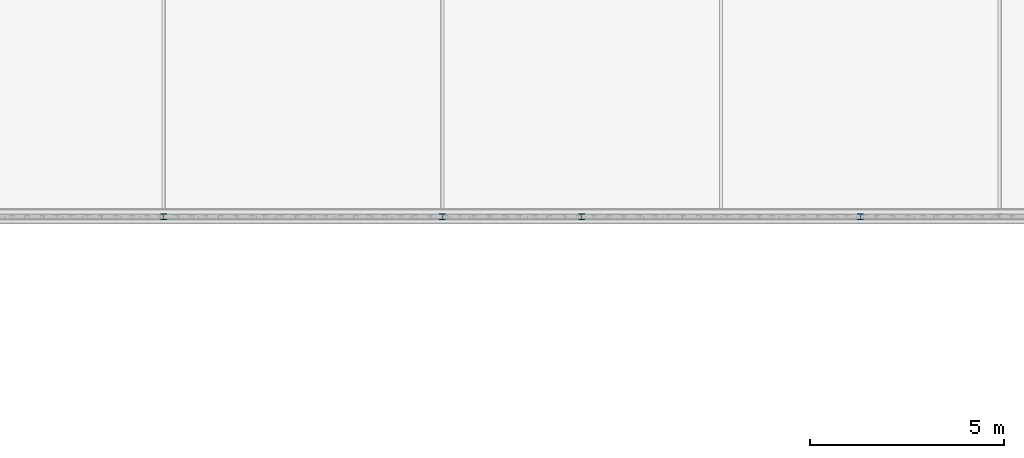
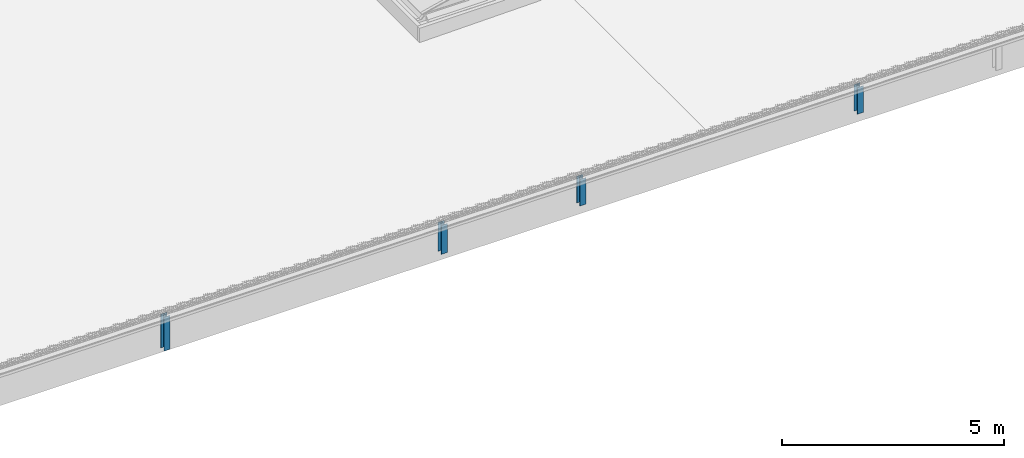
# One storey, part 18 of 81: 4 columns.
"""IFC2X3 building model written with IfcOpenShell, lengths in millimetres."""

from ifc_helpers import new_model, entity, si_unit, converted_unit, derived_unit, money_unit, direction, frame, origin_with_axes, place, context, subcontext, project, spatial, faceted_brep, material, type_object, element, save


model = new_model("IFC2X3")

# Units and contexts
model_context = context("Model", 3, precision=0.01, world=origin_with_axes(), true_north=direction((0.0, 1.0)))
body_context = subcontext(model_context, "Body", "Model", "MODEL_VIEW")
ifc_project = project(units=[si_unit("LENGTHUNIT", "METRE", prefix="MILLI"), si_unit("AREAUNIT", "SQUARE_METRE"), si_unit("VOLUMEUNIT", "CUBIC_METRE"), converted_unit("PLANEANGLEUNIT", "DEGREE", entity("IfcPlaneAngleMeasure", 0.0174532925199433), si_unit("PLANEANGLEUNIT", "RADIAN"), dimensions=[0, 0, 0, 0, 0, 0, 0]), money_unit("EUR"), converted_unit("TIMEUNIT", "Year", entity("IfcTimeMeasure", 31557600.0), si_unit("TIMEUNIT", "SECOND"), dimensions=[0, 0, 1, 0, 0, 0, 0]), si_unit("MASSUNIT", "GRAM", prefix="KILO"), si_unit("THERMODYNAMICTEMPERATUREUNIT", "DEGREE_CELSIUS"), si_unit("LUMINOUSINTENSITYUNIT", "LUMEN"), si_unit("ENERGYUNIT", "JOULE", prefix="MEGA"), derived_unit("THERMALCONDUCTANCEUNIT", [(si_unit("POWERUNIT", "WATT"), 1), (si_unit("LENGTHUNIT", "METRE"), -1), (si_unit("THERMODYNAMICTEMPERATUREUNIT", "KELVIN"), -1)]), derived_unit("SPECIFICHEATCAPACITYUNIT", [(si_unit("ENERGYUNIT", "JOULE"), 1), (si_unit("MASSUNIT", "GRAM", prefix="KILO"), -1), (si_unit("THERMODYNAMICTEMPERATUREUNIT", "KELVIN"), -1)]), derived_unit("MASSDENSITYUNIT", [(si_unit("MASSUNIT", "GRAM", prefix="KILO"), 1), (si_unit("VOLUMEUNIT", "CUBIC_METRE"), -1)])], contexts=[model_context])

# Site, building, storey
site_placement = place(None, origin_with_axes())
site = spatial("IfcSite", under=ifc_project, at=site_placement, Name="Site", CompositionType="ELEMENT")
building_placement = place(site_placement, origin_with_axes())
building = spatial("IfcBuilding", under=site, at=building_placement, Name="Naam gebouw", CompositionType="ELEMENT")
storey_placement = place(building_placement, frame((0.0, 0.0, 15320.0), z_axis=(0.0, 0.0, 1.0), x_axis=(1.0, 0.0, 0.0)))
storey = spatial("IfcBuildingStorey", under=building, at=storey_placement, Name="01 dak", CompositionType="ELEMENT", Elevation=15320.0)

# Columns
ifc_material = material(Name="Metaal - Staal C")
column_type = type_object("IfcColumnType", Name="HEA160 160 x 152", PredefinedType="COLUMN")
column_1_placement = place(storey_placement, frame((39699.99999999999, 30080.0, -138.7039064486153), z_axis=(0.0, 0.0, 1.0), x_axis=(-1.0, 0.0, 0.0)))
element("IfcColumn", 1, at=column_1_placement, inside=storey, type_object=column_type, material=ifc_material, Name="HEA160", ObjectType="COLUMN", context=body_context, shape_type="Brep", body=[
    faceted_brep([(-79.9999999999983, 76.00000000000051, 793.6645467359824), (-79.9999999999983, 76.00000000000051, 0.0), (-79.9999999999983, 67.00000000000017, 0.0), (-79.9999999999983, 67.00000000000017, 793.6645467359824), (79.9999999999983, 76.00000000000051, 793.6645467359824), (79.9999999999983, 76.00000000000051, 0.0), (79.9999999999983, 67.00000000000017, 0.0), (3.000000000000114, 67.00000000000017, 0.0), (3.000000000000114, -67.00000000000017, 0.0), (79.9999999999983, -67.00000000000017, 0.0), (79.9999999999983, -76.00000000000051, 0.0), (-79.9999999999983, -76.00000000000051, 0.0), (-79.9999999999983, -67.00000000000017, 0.0), (-3.000000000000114, -67.00000000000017, 0.0), (-3.000000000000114, 67.00000000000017, 0.0), (-3.000000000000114, 67.00000000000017, 793.6645467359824), (-3.000000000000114, -67.00000000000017, 793.6645467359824), (-79.9999999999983, -67.00000000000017, 793.6645467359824), (-79.9999999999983, -76.00000000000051, 793.6645467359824), (79.9999999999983, -76.00000000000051, 793.6645467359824), (79.9999999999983, -67.00000000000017, 793.6645467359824), (3.000000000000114, -67.00000000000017, 793.6645467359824), (3.000000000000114, 67.00000000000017, 793.6645467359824), (79.9999999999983, 67.00000000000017, 793.6645467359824)], [[[0, 1, 2, 3]], [[4, 5, 1, 0]], [[2, 1, 5, 6, 7, 8, 9, 10, 11, 12, 13, 14]], [[3, 2, 14, 15]], [[4, 0, 3, 15, 16, 17, 18, 19, 20, 21, 22, 23]], [[23, 6, 5, 4]], [[22, 7, 6, 23]], [[21, 8, 7, 22]], [[20, 9, 8, 21]], [[19, 10, 9, 20]], [[18, 11, 10, 19]], [[17, 12, 11, 18]], [[16, 13, 12, 17]], [[15, 14, 13, 16]]]),
])
column_2_placement = place(storey_placement, frame((43300.00000000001, 30080.0, -72.09454259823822), z_axis=(0.0, 0.0, 1.0), x_axis=(-1.0, 0.0, 0.0)))
element("IfcColumn", 2, at=column_2_placement, inside=storey, type_object=column_type, material=ifc_material, Name="HEA160", ObjectType="COLUMN", context=body_context, shape_type="Brep", body=[
    faceted_brep([(-79.9999999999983, 76.00000000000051, 727.0551828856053), (-79.9999999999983, 76.00000000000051, 0.0), (-79.9999999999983, 67.00000000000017, 0.0), (-79.9999999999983, 67.00000000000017, 727.0551828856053), (79.9999999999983, 76.00000000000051, 727.0551828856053), (79.9999999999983, 76.00000000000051, 0.0), (79.9999999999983, 67.00000000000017, 0.0), (3.000000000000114, 67.00000000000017, 0.0), (3.000000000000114, -67.00000000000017, 0.0), (79.9999999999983, -67.00000000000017, 0.0), (79.9999999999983, -76.00000000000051, 0.0), (-79.9999999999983, -76.00000000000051, 0.0), (-79.9999999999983, -67.00000000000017, 0.0), (-3.000000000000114, -67.00000000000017, 0.0), (-3.000000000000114, 67.00000000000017, 0.0), (-3.000000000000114, 67.00000000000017, 727.0551828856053), (-3.000000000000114, -67.00000000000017, 727.0551828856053), (-79.9999999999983, -67.00000000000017, 727.0551828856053), (-79.9999999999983, -76.00000000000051, 727.0551828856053), (79.9999999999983, -76.00000000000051, 727.0551828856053), (79.9999999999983, -67.00000000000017, 727.0551828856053), (3.000000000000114, -67.00000000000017, 727.0551828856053), (3.000000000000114, 67.00000000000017, 727.0551828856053), (79.9999999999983, 67.00000000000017, 727.0551828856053)], [[[0, 1, 2, 3]], [[4, 5, 1, 0]], [[2, 1, 5, 6, 7, 8, 9, 10, 11, 12, 13, 14]], [[3, 2, 14, 15]], [[4, 0, 3, 15, 16, 17, 18, 19, 20, 21, 22, 23]], [[23, 6, 5, 4]], [[22, 7, 6, 23]], [[21, 8, 7, 22]], [[20, 9, 8, 21]], [[19, 10, 9, 20]], [[18, 11, 10, 19]], [[17, 12, 11, 18]], [[16, 13, 12, 17]], [[15, 14, 13, 16]]]),
])
column_3_placement = place(storey_placement, frame((50500.00000000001, 30080.0, -72.30828128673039), z_axis=(0.0, 0.0, 1.0), x_axis=(-1.0, 0.0, 0.0)))
element("IfcColumn", 3, at=column_3_placement, inside=storey, type_object=column_type, material=ifc_material, Name="HEA160", ObjectType="COLUMN", context=body_context, shape_type="Brep", body=[
    faceted_brep([(-79.9999999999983, 76.00000000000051, 727.2689215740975), (-79.9999999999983, 76.00000000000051, 0.0), (-79.9999999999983, 67.00000000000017, 0.0), (-79.9999999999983, 67.00000000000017, 727.2689215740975), (79.9999999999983, 76.00000000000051, 727.2689215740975), (79.9999999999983, 76.00000000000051, 0.0), (79.9999999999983, 67.00000000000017, 0.0), (3.000000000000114, 67.00000000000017, 0.0), (3.000000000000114, -67.00000000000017, 0.0), (79.9999999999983, -67.00000000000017, 0.0), (79.9999999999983, -76.00000000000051, 0.0), (-79.9999999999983, -76.00000000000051, 0.0), (-79.9999999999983, -67.00000000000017, 0.0), (-3.000000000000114, -67.00000000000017, 0.0), (-3.000000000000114, 67.00000000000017, 0.0), (-3.000000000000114, 67.00000000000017, 727.2689215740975), (-3.000000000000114, -67.00000000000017, 727.2689215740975), (-79.9999999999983, -67.00000000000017, 727.2689215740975), (-79.9999999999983, -76.00000000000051, 727.2689215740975), (79.9999999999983, -76.00000000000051, 727.2689215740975), (79.9999999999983, -67.00000000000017, 727.2689215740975), (3.000000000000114, -67.00000000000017, 727.2689215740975), (3.000000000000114, 67.00000000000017, 727.2689215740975), (79.9999999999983, 67.00000000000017, 727.2689215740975)], [[[0, 1, 2, 3]], [[4, 5, 1, 0]], [[2, 1, 5, 6, 7, 8, 9, 10, 11, 12, 13, 14]], [[3, 2, 14, 15]], [[4, 0, 3, 15, 16, 17, 18, 19, 20, 21, 22, 23]], [[23, 6, 5, 4]], [[22, 7, 6, 23]], [[21, 8, 7, 22]], [[20, 9, 8, 21]], [[19, 10, 9, 20]], [[18, 11, 10, 19]], [[17, 12, 11, 18]], [[16, 13, 12, 17]], [[15, 14, 13, 16]]]),
])
column_4_placement = place(storey_placement, frame((32499.99999999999, 30080.0, -271.9226341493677), z_axis=(0.0, 0.0, 1.0), x_axis=(-1.0, 0.0, 0.0)))
element("IfcColumn", 4, at=column_4_placement, inside=storey, type_object=column_type, material=ifc_material, Name="HEA160", ObjectType="COLUMN", context=body_context, shape_type="Brep", body=[
    faceted_brep([(-79.9999999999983, 76.00000000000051, 926.8832744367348), (-79.9999999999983, 76.00000000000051, 0.0), (-79.9999999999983, 67.00000000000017, 0.0), (-79.9999999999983, 67.00000000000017, 926.8832744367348), (79.9999999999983, 76.00000000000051, 926.8832744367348), (79.9999999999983, 76.00000000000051, 0.0), (79.9999999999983, 67.00000000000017, 0.0), (3.000000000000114, 67.00000000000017, 0.0), (3.000000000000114, -67.00000000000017, 0.0), (79.9999999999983, -67.00000000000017, 0.0), (79.9999999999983, -76.00000000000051, 0.0), (-79.9999999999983, -76.00000000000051, 0.0), (-79.9999999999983, -67.00000000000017, 0.0), (-3.000000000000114, -67.00000000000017, 0.0), (-3.000000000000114, 67.00000000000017, 0.0), (-3.000000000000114, 67.00000000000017, 926.8832744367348), (-3.000000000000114, -67.00000000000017, 926.8832744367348), (-79.9999999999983, -67.00000000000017, 926.8832744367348), (-79.9999999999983, -76.00000000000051, 926.8832744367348), (79.9999999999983, -76.00000000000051, 926.8832744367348), (79.9999999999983, -67.00000000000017, 926.8832744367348), (3.000000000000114, -67.00000000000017, 926.8832744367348), (3.000000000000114, 67.00000000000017, 926.8832744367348), (79.9999999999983, 67.00000000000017, 926.8832744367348)], [[[0, 1, 2, 3]], [[4, 5, 1, 0]], [[2, 1, 5, 6, 7, 8, 9, 10, 11, 12, 13, 14]], [[3, 2, 14, 15]], [[4, 0, 3, 15, 16, 17, 18, 19, 20, 21, 22, 23]], [[23, 6, 5, 4]], [[22, 7, 6, 23]], [[21, 8, 7, 22]], [[20, 9, 8, 21]], [[19, 10, 9, 20]], [[18, 11, 10, 19]], [[17, 12, 11, 18]], [[16, 13, 12, 17]], [[15, 14, 13, 16]]]),
])

save(model, "model.ifc")
